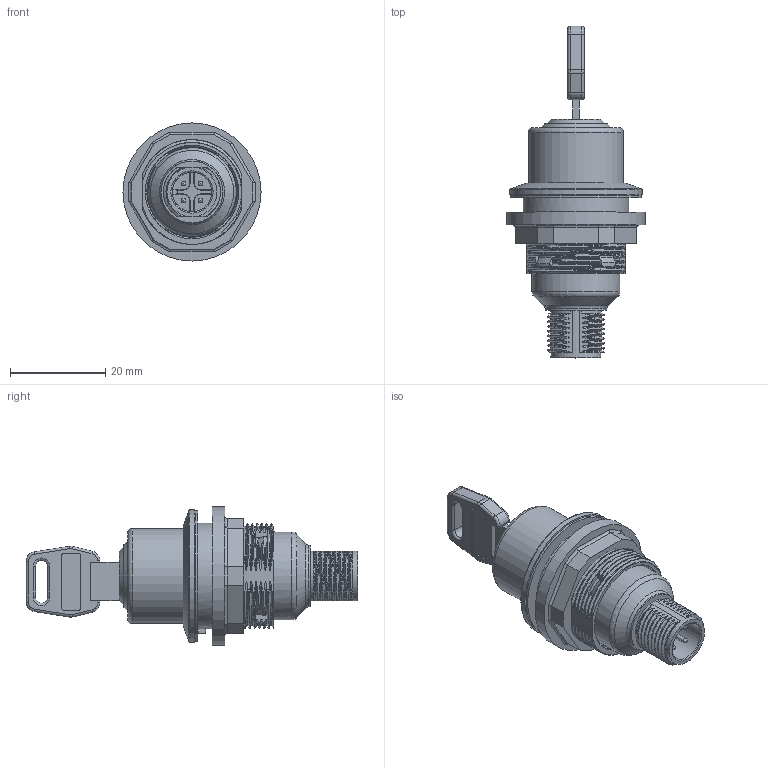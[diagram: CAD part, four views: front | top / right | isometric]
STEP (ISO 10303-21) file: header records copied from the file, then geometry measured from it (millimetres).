
FILE_DESCRIPTION(/* description */ (''),/* implementation_level */ '2;1');
FILE_NAME(/* name */ 'SVASSA15OI_C008_vereinfacht.stp',/* time_stamp */ '2024-07-02T08:26:24+02:00',/* author */ ('Sz'),/* organization */ (''),/* preprocessor_version */ 'ST-DEVELOPER v19.2',/* originating_system */ 'Autodesk Inventor 2023',/* authorisation */ '');
FILE_SCHEMA (('AUTOMOTIVE_DESIGN { 1 0 10303 214 3 1 1 }'));
Products named in the file (1): Bauteil6203
Bounding box: 29 x 69.75 x 29 mm (x, y, z)
Volume: 14087.5 mm3; surface area: 11838.9 mm2
Topology: 6 solids, 6 shells, 704 faces, 1898 edges, 1225 vertices
Faces by surface type: plane 229, cylinder 217, bspline 162, cone 46, torus 44, sphere 6
Full cylindrical faces by diameter (mm): 1 x4, 1.1 x4, 4 x1, 8.3 x1, 10.5 x1, 11.9 x1, 12.65 x1, 13 x1, 18.5 x2, 18.6 x1, 18.7 x1, 19.85 x1, 19.95 x1, 20.05 x2, 20.65 x2, 20.85 x1, 20.917 x1, 22 x1, 22.2 x1, 22.6 x1, 25.1 x2, 25.35 x1, 27.4 x1, 27.9 x1, 29 x1
Entity records: 42014 total; most frequent: CARTESIAN_POINT 24792, ORIENTED_EDGE 3780, DIRECTION 2881, EDGE_CURVE 1890, VERTEX_POINT 1225, AXIS2_PLACEMENT_3D 1074, EDGE_LOOP 757, LINE 733
